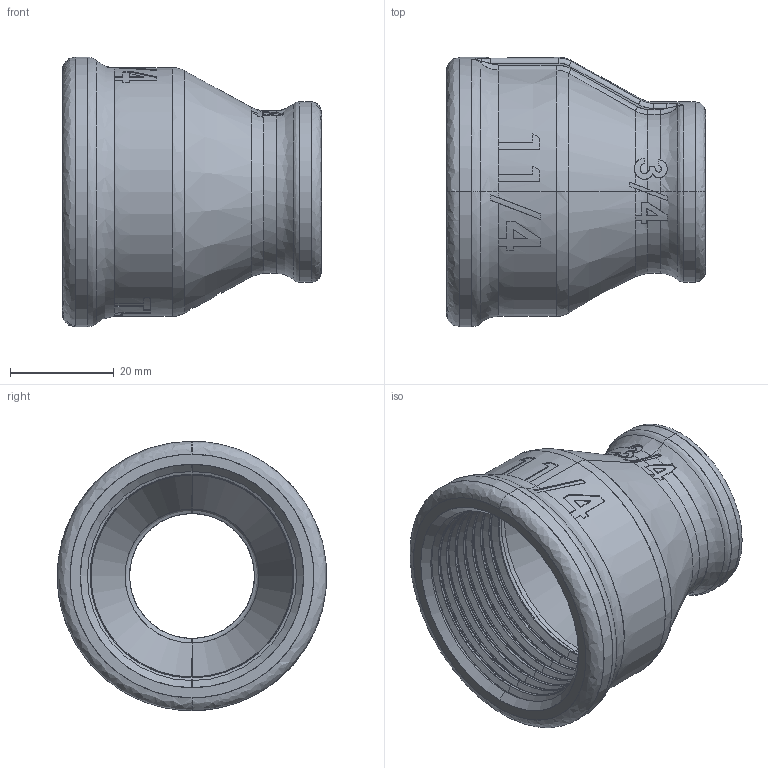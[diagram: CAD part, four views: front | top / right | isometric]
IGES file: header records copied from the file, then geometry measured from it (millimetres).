
Start section: SolidWorks IGES file using analytic representation for surfaces
Global section: file name: C:\Users\Joel Rosa\Desktop\Tubulação\12-32-OK\12-32-036.IGS; native system: SolidWorks 2011; preprocessor: SolidWorks 2011; author: Joel Rosa; date: 121208.225007; units: millimetre
Bounding box: 50 x 52 x 52 mm (x, y, z)
Surface area: 15841.7 mm2 (no closed solid volume)
Topology: 0 solids, 0 shells, 434 faces, 3572 edges, 3569 vertices
Faces by surface type: bspline 305, revolution 129
